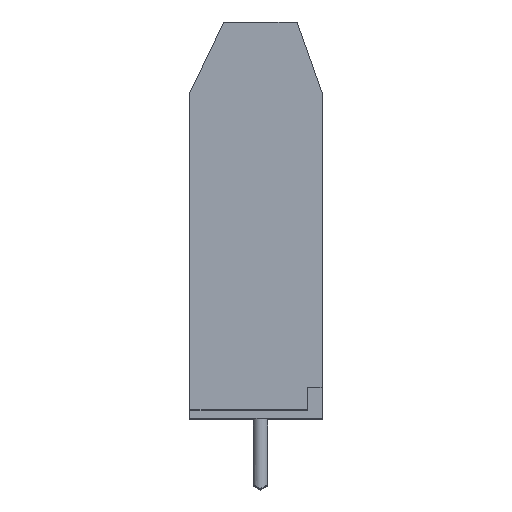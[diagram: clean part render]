
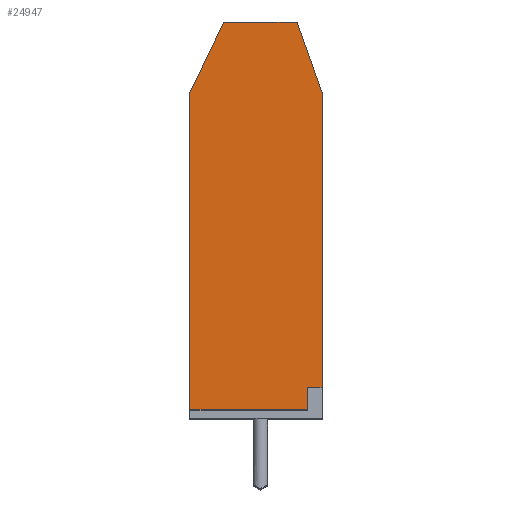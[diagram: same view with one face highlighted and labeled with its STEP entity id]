
A CAD part, top view. The second image highlights one B-rep face of the part: STEP entity #24947.
In plain terms, the highlighted planar face has unit normal (0, 0, 1).
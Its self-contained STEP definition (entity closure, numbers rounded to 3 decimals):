
#771 = EDGE_CURVE ( 'NONE', #8552, #35033, #15575, .T. ) ;
#946 = EDGE_CURVE ( 'NONE', #22856, #35033, #27402, .T. ) ;
#2353 = CARTESIAN_POINT ( 'NONE',  ( -9., 14.3, 0. ) ) ;
#3455 = ORIENTED_EDGE ( 'NONE', *, *, #26218, .T. ) ;
#4222 = VECTOR ( 'NONE', #26502, 1000. ) ;
#4315 = CARTESIAN_POINT ( 'NONE',  ( -6.7, 27., 0. ) ) ;
#4554 = FACE_OUTER_BOUND ( 'NONE', #42119, .T. ) ;
#5825 = EDGE_CURVE ( 'NONE', #22856, #7797, #15899, .T. ) ;
#6152 = CARTESIAN_POINT ( 'NONE',  ( -0.989, 2.1, 0. ) ) ;
#6581 = VECTOR ( 'NONE', #30564, 1000. ) ;
#6947 = DIRECTION ( 'NONE',  ( 1., 0., 0. ) ) ;
#7106 = VERTEX_POINT ( 'NONE', #4315 ) ;
#7797 = VERTEX_POINT ( 'NONE', #27852 ) ;
#8552 = VERTEX_POINT ( 'NONE', #10513 ) ;
#9058 = EDGE_CURVE ( 'NONE', #7106, #12267, #14222, .T. ) ;
#9597 = CARTESIAN_POINT ( 'NONE',  ( 0., 2.1, 0. ) ) ;
#9983 = DIRECTION ( 'NONE',  ( -1., 0., 0. ) ) ;
#10189 = ORIENTED_EDGE ( 'NONE', *, *, #771, .T. ) ;
#10513 = CARTESIAN_POINT ( 'NONE',  ( -9., 0.567, 0. ) ) ;
#12267 = VERTEX_POINT ( 'NONE', #40443 ) ;
#14222 = LINE ( 'NONE', #30416, #6581 ) ;
#15575 = LINE ( 'NONE', #38209, #23641 ) ;
#15899 = LINE ( 'NONE', #9597, #31032 ) ;
#16323 = CARTESIAN_POINT ( 'NONE',  ( -1.7, 27., 0. ) ) ;
#17517 = EDGE_CURVE ( 'NONE', #33440, #28148, #36895, .T. ) ;
#17758 = DIRECTION ( 'NONE',  ( -0.334, 0.943, 0. ) ) ;
#18649 = DIRECTION ( 'NONE',  ( 0., -1., 0. ) ) ;
#20006 = AXIS2_PLACEMENT_3D ( 'NONE', #35497, #21847, #25762 ) ;
#20826 = EDGE_CURVE ( 'NONE', #12267, #8552, #36184, .T. ) ;
#21847 = DIRECTION ( 'NONE',  ( 0., 0., -1. ) ) ;
#21968 = VECTOR ( 'NONE', #30361, 1000. ) ;
#22856 = VERTEX_POINT ( 'NONE', #6152 ) ;
#23641 = VECTOR ( 'NONE', #34894, 1000. ) ;
#24947 = ADVANCED_FACE ( 'NONE', ( #4554 ), #39396, .F. ) ;
#25762 = DIRECTION ( 'NONE',  ( -1., 0., 0. ) ) ;
#26218 = EDGE_CURVE ( 'NONE', #7797, #33440, #31770, .T. ) ;
#26502 = DIRECTION ( 'NONE',  ( 0., -1., 0. ) ) ;
#26687 = CARTESIAN_POINT ( 'NONE',  ( 0., 22.2, 0. ) ) ;
#27225 = CARTESIAN_POINT ( 'NONE',  ( -6.7, 27., 0. ) ) ;
#27402 = LINE ( 'NONE', #35640, #37700 ) ;
#27696 = VECTOR ( 'NONE', #17758, 1000. ) ;
#27852 = CARTESIAN_POINT ( 'NONE',  ( 0., 2.1, 0. ) ) ;
#28148 = VERTEX_POINT ( 'NONE', #16323 ) ;
#30361 = DIRECTION ( 'NONE',  ( 0., 1., 0. ) ) ;
#30416 = CARTESIAN_POINT ( 'NONE',  ( -9., 22.2, 0. ) ) ;
#30564 = DIRECTION ( 'NONE',  ( -0.432, -0.902, 0. ) ) ;
#31032 = VECTOR ( 'NONE', #6947, 1000. ) ;
#31503 = LINE ( 'NONE', #27225, #39072 ) ;
#31770 = LINE ( 'NONE', #26687, #21968 ) ;
#31920 = ORIENTED_EDGE ( 'NONE', *, *, #5825, .T. ) ;
#32338 = CARTESIAN_POINT ( 'NONE',  ( 0., 22.2, 0. ) ) ;
#33440 = VERTEX_POINT ( 'NONE', #32338 ) ;
#33469 = ORIENTED_EDGE ( 'NONE', *, *, #20826, .T. ) ;
#34894 = DIRECTION ( 'NONE',  ( 1., 0., 0. ) ) ;
#35030 = CARTESIAN_POINT ( 'NONE',  ( -1.7, 27., 0. ) ) ;
#35033 = VERTEX_POINT ( 'NONE', #38227 ) ;
#35497 = CARTESIAN_POINT ( 'NONE',  ( 0., 14.3, 0. ) ) ;
#35640 = CARTESIAN_POINT ( 'NONE',  ( -0.989, 2.1, 0. ) ) ;
#36184 = LINE ( 'NONE', #2353, #4222 ) ;
#36895 = LINE ( 'NONE', #35030, #27696 ) ;
#37700 = VECTOR ( 'NONE', #18649, 1000. ) ;
#37805 = ORIENTED_EDGE ( 'NONE', *, *, #9058, .T. ) ;
#38209 = CARTESIAN_POINT ( 'NONE',  ( 0., 0.567, 0. ) ) ;
#38227 = CARTESIAN_POINT ( 'NONE',  ( -0.989, 0.567, 0. ) ) ;
#39072 = VECTOR ( 'NONE', #9983, 1000. ) ;
#39396 = PLANE ( 'NONE',  #20006 ) ;
#40187 = ORIENTED_EDGE ( 'NONE', *, *, #17517, .T. ) ;
#40443 = CARTESIAN_POINT ( 'NONE',  ( -9., 22.2, 0. ) ) ;
#41327 = EDGE_CURVE ( 'NONE', #28148, #7106, #31503, .T. ) ;
#42119 = EDGE_LOOP ( 'NONE', ( #42556, #31920, #3455, #40187, #44283, #37805, #33469, #10189 ) ) ;
#42556 = ORIENTED_EDGE ( 'NONE', *, *, #946, .F. ) ;
#44283 = ORIENTED_EDGE ( 'NONE', *, *, #41327, .T. ) ;
